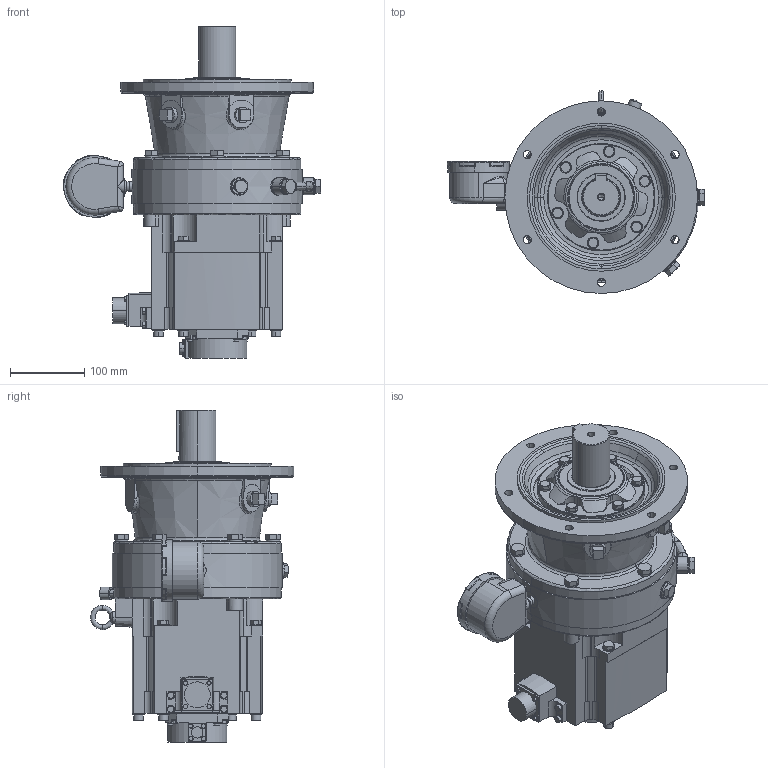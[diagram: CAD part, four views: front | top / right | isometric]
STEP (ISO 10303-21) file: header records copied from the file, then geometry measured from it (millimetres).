
FILE_DESCRIPTION((''),'2;1');
FILE_NAME('HG-SR352G1_061117','2016-02-25T',('TJ18738'),(''),'PRO/ENGINEER BY PARAMETRIC TECHNOLOGY CORPORATION, 2014310','PRO/ENGINEER BY PARAMETRIC TECHNOLOGY CORPORATION, 2014310','');
FILE_SCHEMA(('CONFIG_CONTROL_DESIGN'));
Products named in the file (1): HG-SR352G1_061117
Bounding box: 347.96 x 274.28 x 448 mm (x, y, z)
Volume: 11062587 mm3; surface area: 465315.2 mm2
Topology: 1 solids, 1 shells, 1096 faces, 2743 edges, 1739 vertices
Faces by surface type: plane 539, cylinder 359, cone 93, torus 65, bspline 38, sphere 2
Entity records: 45194 total; most frequent: CARTESIAN_POINT 19029, DIRECTION 5494, ORIENTED_EDGE 5454, EDGE_CURVE 2727, AXIS2_PLACEMENT_3D 2126, VERTEX_POINT 1739, VECTOR 1242, LINE 1242
